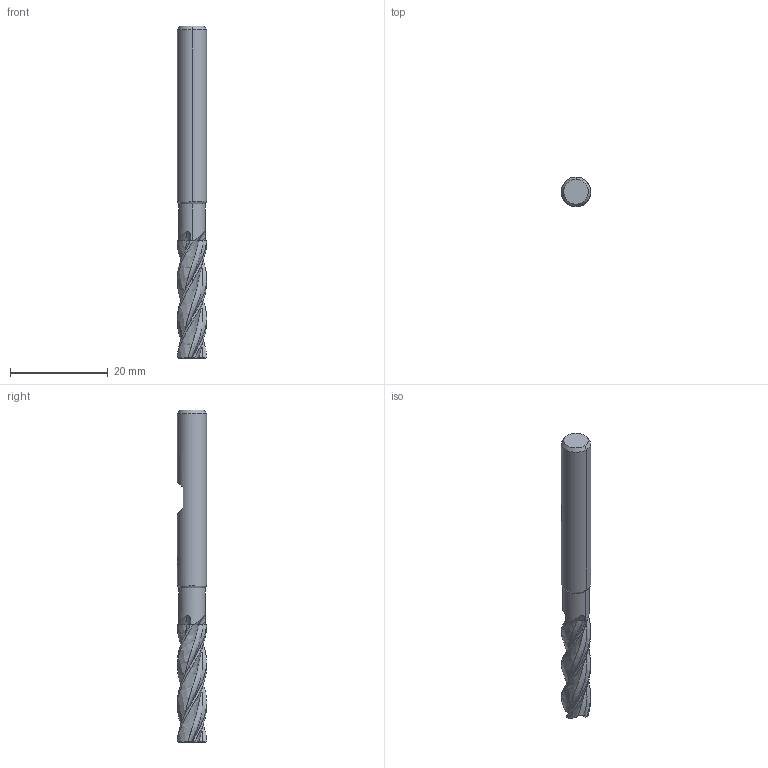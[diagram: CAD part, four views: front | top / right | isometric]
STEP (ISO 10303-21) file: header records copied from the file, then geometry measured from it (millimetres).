
FILE_DESCRIPTION(('no description'),'unknown implementation level');
FILE_NAME('solid5GM1tPJaXXhIuuSFyuze8SFuPJs_1.STP',' ',('CIMSOURCE GmbH'),('CADClick - KiM GmbH - www.kimweb.de'),'unknown preprocess','ACIS','unknown authorization');
FILE_SCHEMA(('automotive_design'));
Length unit declared in the file: millimetre
Products named in the file (2): NOCUT; CUT
Bounding box: 6 x 6 x 68 mm (x, y, z)
Volume: 1543.8 mm3; surface area: 1799.6 mm2
Topology: 2 solids, 2 shells, 129 faces, 362 edges, 236 vertices
Faces by surface type: bspline 48, plane 27, cone 26, cylinder 16, revolution 12
Entity records: 21424 total; most frequent: CARTESIAN_POINT 14511, STYLED_ITEM 729, PRESENTATION_STYLE_ASSIGNMENT 729, COLOUR_RGB 729, ORIENTED_EDGE 724, DIRECTION 400, EDGE_CURVE 362, CURVE_STYLE 362
